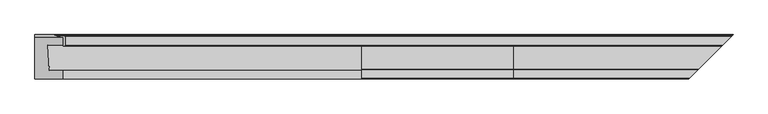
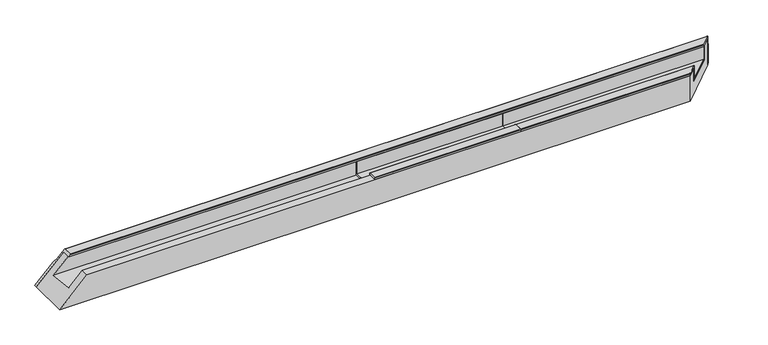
"""IFC4 building model written with IfcOpenShell, lengths in millimetres: proxy geometry, Weiku - Montante - Caixilho duplo 02.2.01.002 de canto : Weiku - Montante - Caixilho duplo 02.2.01.002 de canto."""

from ifc_helpers import new_model, si_unit, point, frame, frame_2d, origin, place, context, project, spatial, polyline, circle_curve, ellipse_curve, trimmed, segment, composite_curve, outline, extrude, faceted_brep, source, transform, mapped, element, save
from ifc_brep_helpers import plane_surface, cylinder_surface, revolved_surface, advanced_brep


def generic_models_44031240(model_context):
    return source(origin(), model_context, "Body", "SolidModel", [
        extrude(outline(composite_curve([segment(polyline([(15.0, 52.0), (0.0, 52.0), (0.0, 55.0)]), True, "CONTINUOUS"), segment(trimmed(circle_curve(frame_2d((1.0, 55.0)), 1.0), [point((0.0, 55.0))], [point((1.0, 56.0))], False, "CARTESIAN"), True, "CONTINUOUS"), segment(polyline([(1.0, 56.0), (16.0, 56.0)]), True, "CONTINUOUS"), segment(trimmed(circle_curve(frame_2d((16.0, 55.0)), 1.0), [point((16.0, 56.0))], [point((17.0, 55.0))], False, "CARTESIAN"), True, "CONTINUOUS"), segment(polyline([(17.0, 55.0), (17.0, 28.908759), (60.0, 26.8749739), (60.0, 52.0), (62.0, 52.0), (62.0, 23.7770256), (15.0, 26.0), (15.0, 52.0)]), True, "CONTINUOUS")], self_intersect=False)), frame((0.0, 0.0, 0.0), z_axis=(1.0, 0.0, 0.0), x_axis=(0.0, 1.0, 0.0)), (0.0, 0.0, 1.0), 276.75),
        advanced_brep(
        [(276.75, 15.0, 52.0), (276.75, 0.0, 52.0), (276.75, 0.0, 55.0), (276.75, 1.0, 56.0), (276.75, 16.0, 56.0), (276.75, 17.0, 55.0), (276.75, 17.0, 28.908759), (276.75, 60.0, 26.8749739), (276.75, 60.0, 52.0), (276.75, 62.0, 52.0), (276.75, 62.0, 23.7770256), (276.75, 15.0, 26.0), (613.5, 15.0, 52.0), (598.5, 0.0, 52.0), (598.5, 0.0, 55.0), (599.5, 1.0, 56.0), (614.5, 16.0, 56.0), (615.5, 17.0, 55.0), (615.5, 17.0, 28.908759), (658.5, 60.0, 26.8749739), (658.5, 60.0, 52.0), (660.5, 62.0, 52.0), (660.5, 62.0, 23.7770256), (613.5, 15.0, 26.0)],
        [
            (0, 1),
            (1, 2),
            (2, 3, circle_curve(frame((276.75, 1.0, 55.0), z_axis=(-1.0, 0.0, 0.0), x_axis=(0.0, 1.0, 0.0)), 1.0)),
            (3, 4),
            (4, 5, circle_curve(frame((276.75, 16.0, 55.0), z_axis=(-1.0, 0.0, 0.0), x_axis=(0.0, 1.0, 0.0)), 1.0)),
            (5, 6),
            (6, 7),
            (7, 8),
            (8, 9),
            (9, 10),
            (10, 11),
            (11, 0),
            (0, 12),
            (12, 13),
            (13, 1),
            (13, 14),
            (14, 2),
            (14, 15, ellipse_curve(frame((599.5, 1.0, 55.0), z_axis=(-0.7071067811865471, 0.7071067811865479, 0.0), x_axis=(-0.7071067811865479, -0.7071067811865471, 0.0)), 1.4142136, 1.0)),
            (15, 3),
            (15, 16),
            (16, 4),
            (16, 17, ellipse_curve(frame((614.5, 16.0, 55.0), z_axis=(-0.7071067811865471, 0.7071067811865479, 0.0), x_axis=(-0.7071067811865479, -0.7071067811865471, 0.0)), 1.4142136, 1.0)),
            (17, 5),
            (17, 18),
            (18, 6),
            (18, 19),
            (19, 7),
            (19, 20),
            (20, 8),
            (20, 21),
            (21, 9),
            (21, 22),
            (22, 10),
            (22, 23),
            (23, 11),
            (23, 12),
        ],
        [
            plane_surface(frame((276.75, 0.0, 0.0), z_axis=(-1.0, 0.0, 0.0), x_axis=(0.0, 0.0, 1.0))),
            plane_surface(frame((276.75, 15.0, 52.0), z_axis=(0.0, 0.0, -1.0), x_axis=(1.0, 0.0, 0.0))),
            plane_surface(frame((276.75, 0.0, 52.0), z_axis=(0.0, -1.0, 0.0), x_axis=(1.0, 0.0, 0.0))),
            cylinder_surface(frame((276.75, 1.0, 55.0), z_axis=(-1.0, 0.0, 0.0), x_axis=(0.0, 1.0, 0.0)), 1.0),
            plane_surface(frame((276.75, 1.0, 56.0), z_axis=(0.0, 0.0, 1.0), x_axis=(1.0, 0.0, 0.0))),
            cylinder_surface(frame((276.75, 16.0, 55.0), z_axis=(-1.0, 0.0, 0.0), x_axis=(0.0, 1.0, 0.0)), 1.0),
            plane_surface(frame((276.75, 17.0, 55.0), z_axis=(0.0, 1.0, 0.0), x_axis=(1.0, 0.0, 0.0))),
            plane_surface(frame((276.75, 17.0, 28.908759), z_axis=(0.0, 0.0472445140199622, 0.9988833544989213), x_axis=(1.0, 0.0, 0.0))),
            plane_surface(frame((276.75, 60.0, 26.8749739), z_axis=(0.0, -1.0, 0.0), x_axis=(1.0, 0.0, 0.0))),
            plane_surface(frame((276.75, 60.0, 52.0), z_axis=(0.0, 0.0, 1.0), x_axis=(1.0, 0.0, 0.0))),
            plane_surface(frame((276.75, 62.0, 52.0), z_axis=(0.0, 1.0, 0.0), x_axis=(1.0, 0.0, 0.0))),
            plane_surface(frame((276.75, 62.0, 23.7770256), z_axis=(0.0, -0.047244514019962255, -0.9988833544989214), x_axis=(1.0, 0.0, 0.0))),
            plane_surface(frame((276.75, 15.0, 26.0), z_axis=(0.0, -1.0, 0.0), x_axis=(1.0, 0.0, 0.0))),
            plane_surface(frame((688.5, 90.0, 70.0), z_axis=(0.7071067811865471, -0.7071067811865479, 0.0), x_axis=(0.0, 0.0, -1.0))),
        ],
        [
            (0, [[1, 2, 3, 4, 5, 6, 7, 8, 9, 10, 11, 12]]),
            (1, [[-1, 13, 14, 15]]),
            (2, [[-2, -15, 16, 17]]),
            (3, [[-3, -17, 18, 19]]),
            (4, [[-4, -19, 20, 21]]),
            (5, [[-5, -21, 22, 23]]),
            (6, [[-6, -23, 24, 25]]),
            (7, [[-7, -25, 26, 27]]),
            (8, [[-8, -27, 28, 29]]),
            (9, [[-9, -29, 30, 31]]),
            (10, [[-10, -31, 32, 33]]),
            (11, [[-11, -33, 34, 35]]),
            (12, [[-12, -35, 36, -13]]),
            (13, [[-14, -36, -34, -32, -30, -28, -26, -24, -22, -20, -18, -16]]),
        ],
    ),
        advanced_brep(
        [(-543.5, 60.0, 55.0), (-546.5, 60.0, 52.0), (658.5, 60.0, 52.0), (658.5, 60.0, 55.0), (-542.5, 61.0, 56.0), (659.5, 61.0, 56.0), (-542.5, 78.0, 56.0), (676.5, 78.0, 56.0), (-543.5, 79.0, 55.0), (677.5, 79.0, 55.0), (-557.5, 79.0, 41.0), (677.5, 79.0, 41.0), (-560.5, 80.0, 38.0), (678.5, 80.0, 38.0), (-563.5, 81.0, 35.0), (679.5, 81.0, 35.0), (-598.5, 81.0, 0.0), (679.5, 81.0, 0.0), (-598.5, 77.0, 0.0), (675.5, 77.0, 0.0), (-546.5, 77.0, 52.0), (675.5, 77.0, 52.0)],
        [
            (0, 1),
            (1, 2),
            (2, 3),
            (3, 0),
            (4, 0, ellipse_curve(frame((-543.5, 61.0, 55.0), z_axis=(0.707106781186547, 0.0, -0.7071067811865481), x_axis=(-0.7071067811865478, 0.0, -0.707106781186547)), 1.4142136, 1.0)),
            (3, 5, ellipse_curve(frame((659.5, 61.0, 55.0), z_axis=(-0.7071067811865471, 0.7071067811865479, 0.0), x_axis=(-0.7071067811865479, -0.7071067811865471, 0.0)), 1.4142136, 1.0)),
            (5, 4),
            (6, 4),
            (5, 7),
            (7, 6),
            (8, 6, ellipse_curve(frame((-543.5, 78.0, 55.0), z_axis=(0.707106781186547, 0.0, -0.7071067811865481), x_axis=(-0.7071067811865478, 0.0, -0.707106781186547)), 1.4142136, 1.0)),
            (7, 9, ellipse_curve(frame((676.5, 78.0, 55.0), z_axis=(-0.7071067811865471, 0.7071067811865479, 0.0), x_axis=(-0.7071067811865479, -0.7071067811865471, 0.0)), 1.4142136, 1.0)),
            (9, 8),
            (10, 8),
            (9, 11),
            (11, 10),
            (12, 10, ellipse_curve(frame((-557.5, 84.0, 41.0), z_axis=(-0.707106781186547, 0.0, 0.7071067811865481), x_axis=(0.7071067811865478, 0.0, 0.707106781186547)), 7.0710678, 5.0)),
            (11, 13, ellipse_curve(frame((682.5, 84.0, 41.0), z_axis=(0.7071067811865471, -0.7071067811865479, 0.0), x_axis=(0.7071067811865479, 0.7071067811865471, 0.0)), 7.0710678, 5.0)),
            (13, 12),
            (14, 12, ellipse_curve(frame((-563.5, 76.0, 35.0), z_axis=(0.707106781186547, 0.0, -0.7071067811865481), x_axis=(-0.7071067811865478, 0.0, -0.707106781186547)), 7.0710678, 5.0)),
            (13, 15, ellipse_curve(frame((674.5, 76.0, 35.0), z_axis=(-0.7071067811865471, 0.7071067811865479, 0.0), x_axis=(-0.7071067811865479, -0.7071067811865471, 0.0)), 7.0710678, 5.0)),
            (15, 14),
            (16, 14),
            (15, 17),
            (17, 16),
            (18, 16),
            (17, 19),
            (19, 18),
            (20, 18),
            (19, 21),
            (21, 20),
            (1, 20),
            (21, 2),
        ],
        [
            plane_surface(frame((-598.5, 60.0, 52.0), z_axis=(0.0, -1.0, 0.0), x_axis=(1.0, 0.0, 0.0))),
            cylinder_surface(frame((-598.5, 61.0, 55.0), z_axis=(-1.0, 0.0, 0.0), x_axis=(0.0, 1.0, 0.0)), 1.0),
            plane_surface(frame((-598.5, 61.0, 56.0), z_axis=(0.0, 0.0, 1.0), x_axis=(1.0, 0.0, 0.0))),
            cylinder_surface(frame((-598.5, 78.0, 55.0), z_axis=(-1.0, 0.0, 0.0), x_axis=(0.0, 1.0, 0.0)), 1.0),
            plane_surface(frame((-598.5, 79.0, 55.0), z_axis=(0.0, 1.0, 0.0), x_axis=(1.0, 0.0, 0.0))),
            revolved_surface(polyline([(687.4999999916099, 89.0, 41.0), (-562.4999999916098, 89.0, 41.0)]), (-598.5, 84.0, 41.0), (1.0, 0.0, 0.0)),
            cylinder_surface(frame((-598.5, 76.0, 35.0), z_axis=(-1.0, 0.0, 0.0), x_axis=(0.0, 1.0, 0.0)), 5.0),
            plane_surface(frame((-598.5, 81.0, 35.0), z_axis=(0.0, 1.0, 0.0), x_axis=(1.0, 0.0, 0.0))),
            plane_surface(frame((-598.5, 81.0, 0.0), z_axis=(0.0, 0.0, -1.0), x_axis=(1.0, 0.0, 0.0))),
            plane_surface(frame((-598.5, 77.0, 0.0), z_axis=(0.0, -1.0, 0.0), x_axis=(1.0, 0.0, 0.0))),
            plane_surface(frame((-598.5, 77.0, 52.0), z_axis=(0.0, 0.0, -1.0), x_axis=(1.0, 0.0, 0.0))),
            plane_surface(frame((688.5, 90.0, 70.0), z_axis=(0.7071067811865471, -0.7071067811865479, 0.0), x_axis=(0.0, 0.0, -1.0))),
            plane_surface(frame((-598.5, 0.0, 0.0), z_axis=(-0.707106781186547, 0.0, 0.7071067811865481), x_axis=(0.0, 1.0, 0.0))),
        ],
        [
            (0, [[1, 2, 3, 4]]),
            (1, [[5, -4, 6, 7]]),
            (2, [[8, -7, 9, 10]]),
            (3, [[11, -10, 12, 13]]),
            (4, [[14, -13, 15, 16]]),
            (5, [[17, -16, 18, 19]]),
            (6, [[20, -19, 21, 22]]),
            (7, [[23, -22, 24, 25]]),
            (8, [[26, -25, 27, 28]]),
            (9, [[29, -28, 30, 31]]),
            (10, [[32, -31, 33, -2]]),
            (11, [[-3, -33, -30, -27, -24, -21, -18, -15, -12, -9, -6]]),
            (12, [[-1, -5, -8, -11, -14, -17, -20, -23, -26, -29, -32]]),
        ],
    ),
        faceted_brep([(-572.5, 15.0, 26.0), (-546.5, 15.0, 52.0), (613.5, 15.0, 52.0), (613.5, 15.0, 26.0), (-574.7229744, 62.0, 23.7770256), (660.5, 62.0, 23.7770256), (-546.5, 62.0, 52.0), (660.5, 62.0, 52.0), (-546.5, 77.0, 52.0), (675.5, 77.0, 52.0), (-598.5, 77.0, 0.0), (675.5, 77.0, 0.0), (-598.5, 0.0, 0.0), (598.5, 0.0, 0.0), (-546.5, 0.0, 52.0), (598.5, 0.0, 52.0)], [[[0, 1, 2, 3]], [[4, 0, 3, 5]], [[6, 4, 5, 7]], [[8, 6, 7, 9]], [[10, 8, 9, 11]], [[12, 10, 11, 13]], [[14, 12, 13, 15]], [[1, 14, 15, 2]], [[3, 2, 15, 13, 11, 9, 7, 5]], [[1, 0, 4, 6, 8, 10, 12, 14]]]),
    ])


if __name__ == "__main__":
    model = new_model("IFC4")
    model_context = context("Model", 3, world=origin())
    ifc_project = project(units=[si_unit("LENGTHUNIT", "METRE", prefix="MILLI")], contexts=[model_context])
    site = spatial("IfcSite", under=ifc_project)
    building = spatial("IfcBuilding", under=site)
    placement = place(None, origin())
    generic_models_shape = generic_models_44031240(model_context)
    element("IfcBuildingElementProxy", 1, Name="Weiku - Montante - Caixilho duplo 02.2.01.002 de canto : Weiku - Montante - Caixilho duplo 02.2.01.002 de canto", ObjectType="Weiku - Montante - Caixilho duplo 02.2.01.002 de canto : Weiku - Montante - Caixilho duplo 02.2.01.002 de canto", at=placement, inside=building, context=model_context, shape_type="MappedRepresentation", body=[
        mapped(generic_models_shape, transform((0.0, 0.0, 0.0), x_axis=(1.0, 0.0, 0.0), y_axis=(0.0, 1.0, 0.0), z_axis=(0.0, 0.0, 1.0))),
    ])
    save(model, "model.ifc")
